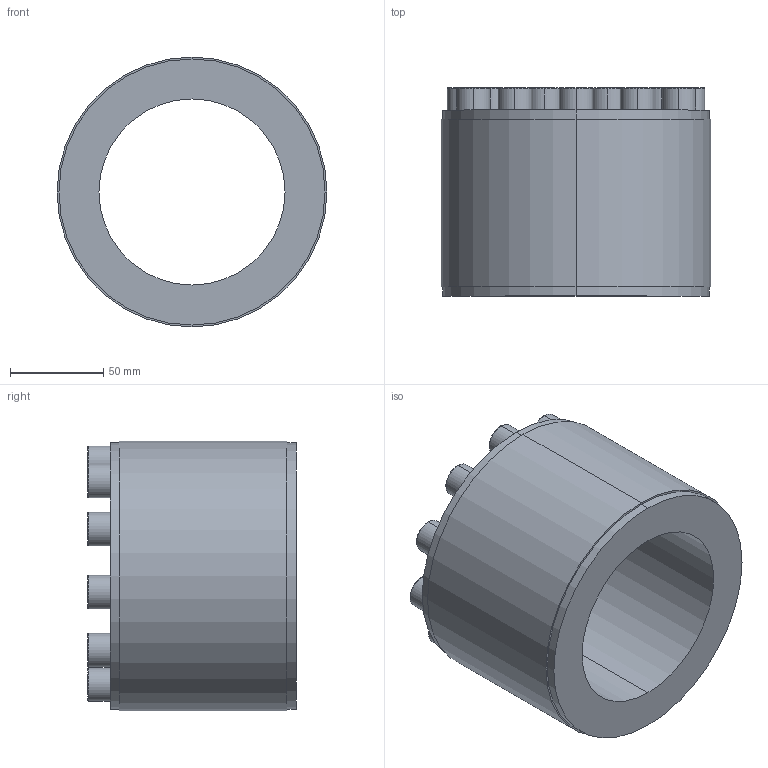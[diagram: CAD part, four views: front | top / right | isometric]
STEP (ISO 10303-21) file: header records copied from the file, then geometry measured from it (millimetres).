
FILE_DESCRIPTION (( 'STEP AP203' ), '1' );
FILE_NAME ('PL-D1 100-145.STEP', '2021-10-23T00:17:31', ( '' ), ( '' ), 'SwSTEP 2.0', 'SolidWorks 2018', '' );
FILE_SCHEMA (( 'CONFIG_CONTROL_DESIGN' ));
Length unit declared in the file: millimetre
Products named in the file (1): PL-D1 100-145
Bounding box: 145 x 112 x 145 mm (x, y, z)
Volume: 889218.8 mm3; surface area: 103840.2 mm2
Topology: 1 solids, 1 shells, 144 faces, 332 edges, 214 vertices
Faces by surface type: plane 92, cylinder 30, torus 22
Entity records: 4145 total; most frequent: DIRECTION 726, CARTESIAN_POINT 691, ORIENTED_EDGE 664, EDGE_CURVE 332, AXIS2_PLACEMENT_3D 249, VECTOR 228, LINE 228, VERTEX_POINT 214
